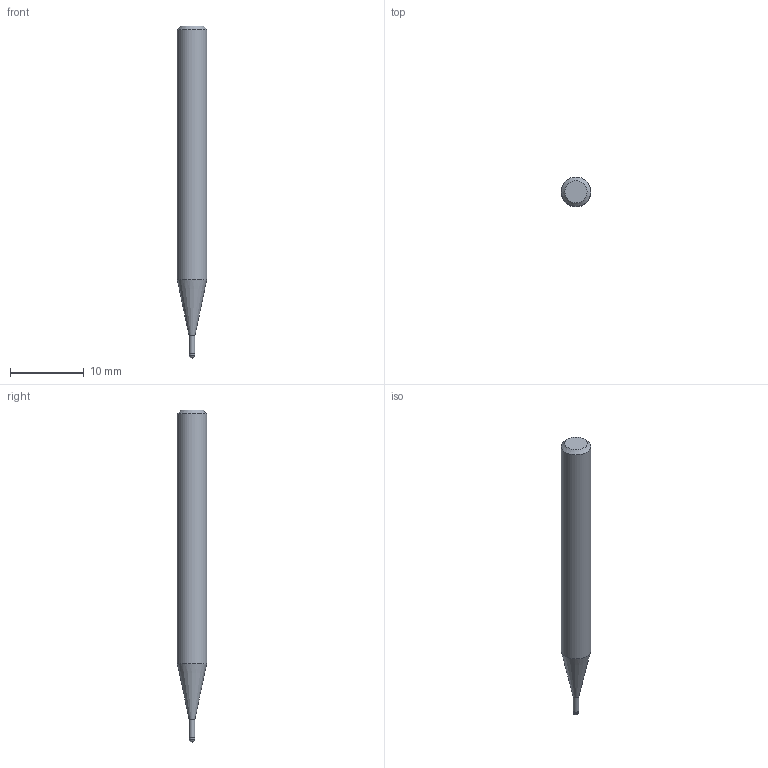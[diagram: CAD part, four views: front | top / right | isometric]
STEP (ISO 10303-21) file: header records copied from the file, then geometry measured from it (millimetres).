
FILE_DESCRIPTION((''),'2;1');
FILE_NAME('C:\Users\nsx150\AppData\Local\Temp\Mastercam 2021\AP8FW4WOPM\TEMP.step','2024-10-16T18:40:30',(''),(''),'STEP Write','Mastercam 2021 ... CNC Software, Inc.','');
FILE_SCHEMA(('AUTOMOTIVE_DESIGN'));
Length unit declared in the file: millimetre
Products named in the file (1): None
Bounding box: 4 x 4 x 45 mm (x, y, z)
Volume: 471 mm3; surface area: 507 mm2
Topology: 2 solids, 2 shells, 9 faces, 14 edges, 8 vertices
Faces by surface type: plane 3, cylinder 3, cone 2, sphere 1
Full cylindrical faces by diameter (mm): 0.76 x1, 0.8 x1, 4 x1
Entity records: 211 total; most frequent: DIRECTION 36, CARTESIAN_POINT 25, AXIS2_PLACEMENT_3D 18, ORIENTED_EDGE 14, EDGE_LOOP 14, STYLED_ITEM 12, ADVANCED_FACE 9, FACE_BOUND 8
